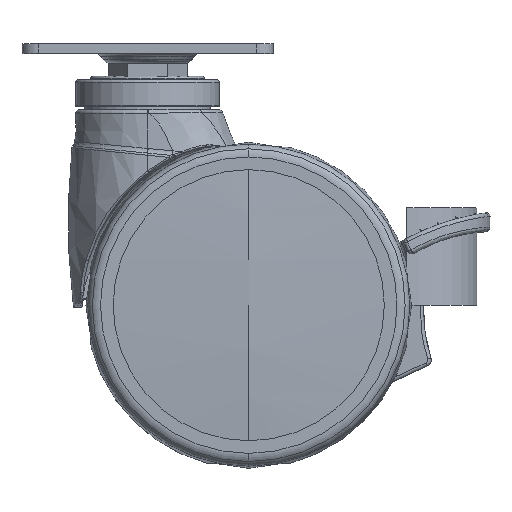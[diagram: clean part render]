
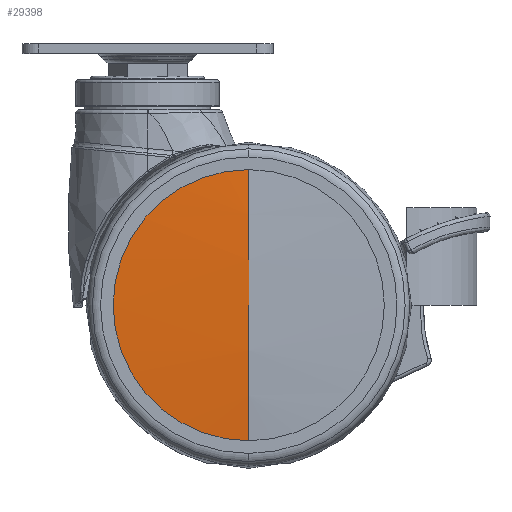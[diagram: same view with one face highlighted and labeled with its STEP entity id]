
A CAD part, top view. The second image highlights one B-rep face of the part: STEP entity #29398.
In plain terms, the highlighted spherical face has radius 560 mm.
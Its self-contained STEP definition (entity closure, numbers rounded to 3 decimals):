
#29239=CARTESIAN_POINT('',(-557.073,0.,0.));
#29240=DIRECTION('',(0.,0.,1.));
#29241=DIRECTION('',(1.,0.,0.));
#29242=AXIS2_PLACEMENT_3D('',#29239,#29240,#29241);
#29244=CARTESIAN_POINT('',(-557.073,0.,0.));
#29245=DIRECTION('',(0.,0.,-1.));
#29246=DIRECTION('',(1.,0.,0.));
#29247=AXIS2_PLACEMENT_3D('',#29244,#29245,#29246);
#29262=CARTESIAN_POINT('',(1.384,0.,0.));
#29263=DIRECTION('',(1.,0.,0.));
#29264=DIRECTION('',(0.,1.,0.));
#29265=AXIS2_PLACEMENT_3D('',#29262,#29263,#29264);
#29357=CARTESIAN_POINT('',(2.927,0.,0.));
#29358=CARTESIAN_POINT('',(1.384,41.55,0.));
#29359=VERTEX_POINT('',#29357);
#29360=VERTEX_POINT('',#29358);
#29373=CARTESIAN_POINT('',(1.384,-41.55,
0.));
#29374=VERTEX_POINT('',#29373);
#29385=CARTESIAN_POINT('',(-557.073,0.,0.));
#29386=DIRECTION('',(1.,0.,0.));
#29387=DIRECTION('',(0.,-1.,0.));
#29388=AXIS2_PLACEMENT_3D('',#29385,#29386,#29387);
#29389=SPHERICAL_SURFACE('',#29388,560.);
#29391=ORIENTED_EDGE('',*,*,#29390,.F.);
#29393=ORIENTED_EDGE('',*,*,#29392,.T.);
#29395=ORIENTED_EDGE('',*,*,#29394,.F.);
#29396=EDGE_LOOP('',(#29391,#29393,#29395));
#29397=FACE_OUTER_BOUND('',#29396,.F.);
#29243=CIRCLE('',#29242,560.);
#29248=CIRCLE('',#29247,560.);
#29266=CIRCLE('',#29265,41.55);
#29390=EDGE_CURVE('',#29359,#29360,#29243,.T.);
#29392=EDGE_CURVE('',#29359,#29374,#29248,.T.);
#29394=EDGE_CURVE('',#29360,#29374,#29266,.T.);
#29398=ADVANCED_FACE('',(#29397),#29389,.T.);
